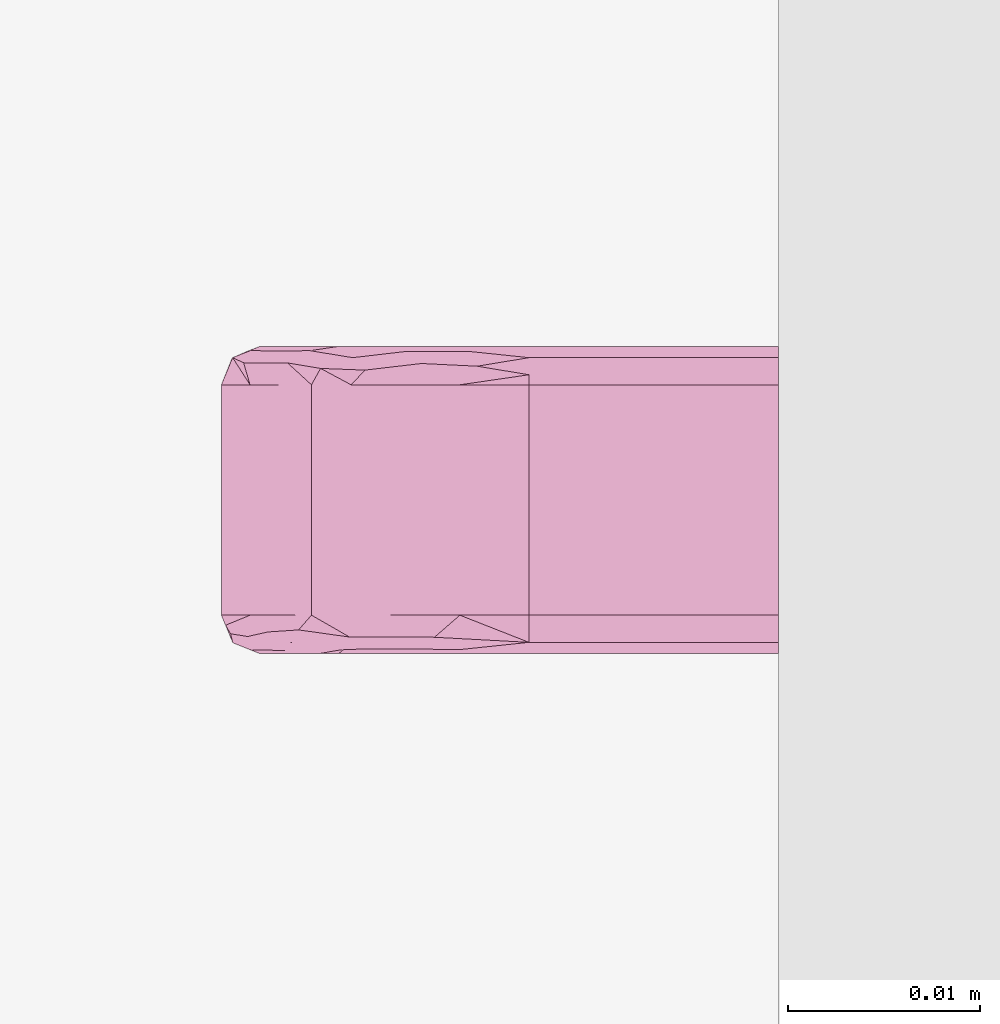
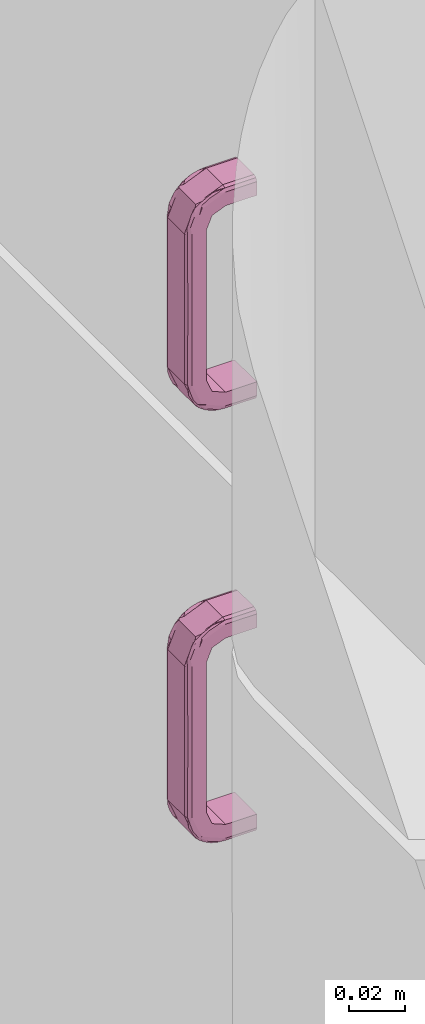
# One storey, part 58 of 65: 2 furnishings.
"""IFC2X3 building model written with IfcOpenShell, lengths in millimetres."""

from ifc_helpers import new_model, entity, si_unit, converted_unit, direction, frame, origin, place, context, subcontext, project, spatial, faceted_brep, source, transform, mapped, material, type_object, type_shapes, element, save


model = new_model("IFC2X3")

# Units and contexts
model_context = context("Model", 3, precision=0.01, world=origin(), true_north=direction((0.0, 1.0)))
body_context = subcontext(model_context, "Body", "Model", "MODEL_VIEW")
ifc_project = project(units=[si_unit("LENGTHUNIT", "METRE", prefix="MILLI"), si_unit("AREAUNIT", "SQUARE_METRE"), si_unit("VOLUMEUNIT", "CUBIC_METRE"), converted_unit("PLANEANGLEUNIT", "DEGREE", entity("IfcPlaneAngleMeasure", 0.017453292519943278), si_unit("PLANEANGLEUNIT", "RADIAN"), dimensions=[0, 0, 0, 0, 0, 0, 0])], contexts=[model_context])

# Site, building, storey, space
site_placement = place(None, origin())
site = spatial("IfcSite", under=ifc_project, at=site_placement, Name="Default", CompositionType="ELEMENT")
building_placement = place(site_placement, origin())
building = spatial("IfcBuilding", under=site, at=building_placement, CompositionType="ELEMENT")
storey_placement = place(building_placement, origin())
storey = spatial("IfcBuildingStorey", under=building, at=storey_placement, Name="Et. 1", CompositionType="ELEMENT", Elevation=0.0)
space_placement = place(storey_placement, origin())
space = spatial("IfcSpace", under=storey, at=space_placement, Name="109", CompositionType="ELEMENT", InteriorOrExteriorSpace="INTERNAL")

# Furnishings
ifc_material = material(Name="Focus - Kjøkken - Håndtak")
furniture_type = type_object("IfcFurnitureType", Name="Focus - Håndtak Skap:Håndtak skap", AssemblyPlace="NOTDEFINED", material=ifc_material)
shared_shape = source(origin(), body_context, "Body", "Brep", [
    faceted_brep([(-6.0, 0.0, 4.021099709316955), (6.0, 0.0, 4.021099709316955), (7.414213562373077, 0.0, 3.435313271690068), (8.0, 0.0, 2.021099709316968), (8.0, 0.0, -4.0210997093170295), (-8.0, 0.0, -4.0210997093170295), (-8.0, 0.0, 2.021099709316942), (-7.414213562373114, 0.0, 3.435313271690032), (-8.0, 0.0, -92.021099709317), (-8.0, 0.0, -85.97890029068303), (8.0, 0.0, -85.97890029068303), (8.0, 0.0, -92.02109970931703), (7.414213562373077, 0.0, -93.43531327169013), (6.0, 0.0, -94.02109970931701), (-6.0, 0.0, -94.02109970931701), (-7.414213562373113, 0.0, -93.43531327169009), (6.0, -13.0, 4.021099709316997), (7.414213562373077, -13.0, 3.4353132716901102), (7.707106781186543, -13.0, 2.728206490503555), (8.0, -13.0, 2.0210997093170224), (8.0, -16.60126528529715, 0.5294067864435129), (8.0, -19.75783998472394, -0.7780892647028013), (8.0, -22.914414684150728, -2.0855853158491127), (8.0, -23.941085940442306, -4.564188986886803), (8.0, -24.967757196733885, -7.042792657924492), (8.0, -25.994428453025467, -9.52139632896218), (8.0, -27.021099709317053, -12.0), (8.0, -27.021099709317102, -24.345039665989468), (8.0, -27.02109970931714, -36.69008005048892), (8.0, -27.021099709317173, -47.017560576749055), (8.0, -27.02109970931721, -57.34504038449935), (8.0, -27.021099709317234, -65.65496033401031), (8.0, -27.021099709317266, -78.0), (8.0, -25.52940678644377, -81.60126528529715), (8.0, -24.221910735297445, -84.75783998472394), (8.0, -22.914414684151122, -87.91441468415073), (8.0, -20.435811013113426, -88.9410859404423), (8.0, -17.95720734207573, -89.96775719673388), (8.0, -15.478603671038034, -90.99442845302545), (8.0, -13.0, -92.02109970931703), (8.0, -13.0, -85.97890029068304), (8.0, -18.64193450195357, -83.64193450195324), (8.0, -20.978900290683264, -78.0), (8.0, -20.978900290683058, -12.0), (8.0, -18.641934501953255, -6.358065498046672), (8.0, -13.0, -4.021099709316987), (-8.0, -13.0, -4.021099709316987), (-8.0, -13.0, -92.02109970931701), (-8.0, -16.6012653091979, -90.52940677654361), (-8.0, -19.7578399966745, -89.22191073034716), (-8.0, -22.914414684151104, -87.91441468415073), (-8.0, -23.941085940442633, -85.435811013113), (-8.0, -24.967757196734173, -82.9572073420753), (-8.0, -25.99442845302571, -80.47860367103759), (-8.0, -27.021099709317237, -78.0), (-8.0, -27.0210997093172, -65.65496055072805), (-8.0, -27.021099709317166, -55.327480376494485), (-8.0, -27.02109970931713, -45.00000020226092), (-8.0, -27.021099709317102, -34.67252002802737), (-8.0, -27.021099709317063, -24.34503985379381), (-8.0, -27.02109970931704, -12.0), (-8.0, -25.52940677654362, -8.398734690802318), (-8.0, -24.221910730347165, -5.242160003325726), (-8.0, -22.914414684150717, -2.0855853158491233), (-8.0, -20.435811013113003, -1.0589140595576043), (-8.0, -17.9572073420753, -0.032242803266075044), (-8.0, -15.478603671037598, 0.9944284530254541), (-8.0, -13.0, 2.0210997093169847), (-8.0, -18.641934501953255, -6.358065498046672), (-8.0, -20.97890029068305, -12.0), (-8.0, -20.978900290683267, -78.0), (-8.0, -18.64193450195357, -83.64193450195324), (-8.0, -13.0, -85.97890029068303), (-7.414213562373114, -13.0, 3.4353132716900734), (-6.523051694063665, -13.0, 3.8044446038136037), (-6.0, -13.0, 4.021099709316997), (7.77682804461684, -22.641402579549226, -0.588486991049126), (7.761199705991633, -19.755916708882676, 1.3575143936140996), (7.832026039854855, -25.954055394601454, -4.794062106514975), (6.0, -24.3286282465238, -0.6713717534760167), (6.7653668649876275, -25.002953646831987, -1.6197407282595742), (7.138822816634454, -22.341444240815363, 0.5752165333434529), (6.0, -20.2025305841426, 1.0377138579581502), (7.148530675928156, -17.923500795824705, 2.864246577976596), (7.108929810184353, -27.65191997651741, -6.400304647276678), (6.0, -26.037713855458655, -4.797469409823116), (6.0, -26.674863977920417, -6.335685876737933), (6.0, -27.52940678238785, -8.398734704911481), (6.0, -25.18317105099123, -2.734420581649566), (7.807346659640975, -27.454202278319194, -8.476170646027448), (7.7836039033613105, -16.529274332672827, 2.502698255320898), (6.0, -16.60126529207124, 2.529406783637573), (7.414213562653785, -25.40873190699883, -2.82000717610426), (6.873580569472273, -26.597477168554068, -3.91370423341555), (6.0, -21.496471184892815, 0.5017461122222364), (6.523051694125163, -28.804444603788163, -12.0), (6.968390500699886, -28.53877057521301, -9.3033965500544), (6.0, -27.847981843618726, -9.167842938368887), (6.0, -29.021099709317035, -12.0), (7.414213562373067, -28.43531327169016, -12.0), (6.0, -18.664314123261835, 1.67486397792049), (6.0, -25.501746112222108, -3.5035288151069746), (-6.0, -16.601265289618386, 2.529406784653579), (-6.0, -15.832157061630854, 2.847981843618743), (-7.78360391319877, -27.50269824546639, -8.470725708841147), (-7.761199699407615, -26.357514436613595, -5.244083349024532), (-7.10892981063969, -18.599695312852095, 2.651919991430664), (-6.0, -20.2025305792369, 1.0377138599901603), (-6.0, -18.664314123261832, 1.67486397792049), (-7.730939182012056, -16.04875454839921, 2.7104148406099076), (-7.744591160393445, -19.340507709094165, 1.5930015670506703), (-6.76536686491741, -21.540484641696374, 1.3746327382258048), (-6.0, -22.265579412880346, 0.183171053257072), (-6.0, -21.496471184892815, 0.5017461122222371), (-7.148530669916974, -27.864246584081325, -7.076499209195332), (-7.138822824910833, -25.57521654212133, -2.6585557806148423), (-6.0, -26.037713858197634, -4.7974694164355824), (-7.414213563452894, -22.17999279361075, 0.4087319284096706), (-7.776828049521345, -24.411513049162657, -2.3585974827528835), (-6.853012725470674, -23.855367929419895, -0.47819170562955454), (-7.414213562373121, -28.43531327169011, -12.0), (-6.0, -27.529406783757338, -8.398734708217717), (-6.0, -25.501746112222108, -3.5035288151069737), (-6.0, -24.3286282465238, -0.6713717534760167), (-7.7071067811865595, -27.728206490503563, -12.0), (-6.96839049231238, -15.696603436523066, 3.5387705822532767), (-6.0, -29.021099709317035, -12.0), (-6.0, -26.67486397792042, -6.33568587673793), (7.414213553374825, -28.435313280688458, -29.508780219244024), (6.0, -29.021099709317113, -34.67252039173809), (7.450985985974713, -28.39755881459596, -41.853819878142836), (7.41421354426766, -28.435313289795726, -61.49999992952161), (6.0, -29.02109970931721, -65.65496032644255), (7.4142135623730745, -28.435313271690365, -78.0), (6.0, -29.02109970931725, -78.0), (6.0, -29.02109970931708, -24.345039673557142), (7.707106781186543, -27.728206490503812, -78.0), (6.0, -29.02109970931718, -55.3274796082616), (6.0, -29.021099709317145, -45.0), (-7.414213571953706, -28.435313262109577, -29.50878047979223), (-6.0, -29.02109970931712, -36.69007988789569), (-6.0, -29.021099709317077, -24.345040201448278), (-7.414213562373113, -28.43531327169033, -78.0), (-7.414213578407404, -28.435313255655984, -61.499999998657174), (-6.0, -29.021099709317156, -47.017559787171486), (-7.376459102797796, -28.472085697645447, -41.85382016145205), (-6.0, -29.021099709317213, -65.6549603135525), (-6.523051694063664, -28.80444460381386, -78.0), (-6.0, -29.02109970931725, -78.0), (-6.0, -29.021099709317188, -57.34504020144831), (7.776828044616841, -24.411513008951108, -87.64140257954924), (7.7611997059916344, -26.357514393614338, -84.7559167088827), (7.8320260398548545, -20.20593789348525, -90.95405539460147), (6.0, -24.328628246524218, -89.32862824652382), (6.0, -22.265579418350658, -90.18317105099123), (6.7653668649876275, -23.38025927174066, -90.002953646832), (6.0, -26.037713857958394, -85.2025305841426), (7.138822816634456, -25.575216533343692, -87.34144424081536), (7.148530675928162, -27.864246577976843, -82.92350079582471), (7.108929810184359, -18.599695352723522, -92.65191997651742), (6.0, -20.202530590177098, -91.03771385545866), (6.0, -18.66431412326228, -91.67486397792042), (6.0, -16.601265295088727, -92.52940678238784), (6.873580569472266, -21.086295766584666, -91.5974771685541), (6.0, -21.49647118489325, -90.50174611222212), (7.8073466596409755, -16.5238293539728, -92.45420227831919), (7.78360390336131, -27.50269825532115, -81.52927433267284), (6.0, -27.529406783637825, -81.60126529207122), (7.414213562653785, -22.179992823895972, -90.40873190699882), (6.0, -25.50174611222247, -86.49647118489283), (6.523051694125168, -13.0, -93.80444460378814), (6.968390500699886, -15.696603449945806, -93.53877057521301), (6.0, -15.832157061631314, -92.84798184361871), (6.0, -13.0, -94.02109970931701), (7.414213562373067, -13.0, -93.43531327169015), (6.0, -26.674863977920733, -83.66431412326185), (-6.0, -27.529406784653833, -81.60126528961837), (-6.0, -27.84798184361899, -80.83215706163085), (-7.7836039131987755, -16.529274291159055, -92.50269824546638), (-7.7611996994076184, -19.755916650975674, -91.3575144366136), (-7.108929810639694, -27.651919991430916, -83.59969531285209), (-6.0, -26.03771385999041, -85.20253057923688), (-6.0, -26.67486397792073, -83.66431412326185), (-7.730939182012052, -27.71041484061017, -81.04875454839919), (-7.74459116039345, -26.593001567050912, -84.34050770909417), (-6.76536686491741, -26.374632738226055, -86.54048464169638), (-6.0, -25.18317105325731, -87.26557941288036), (-6.0, -25.50174611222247, -86.49647118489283), (-7.148530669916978, -17.923500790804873, -92.86424658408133), (-7.138822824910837, -22.341444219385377, -90.57521654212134), (-6.0, -20.20253058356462, -91.03771385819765), (-7.414213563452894, -25.40873192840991, -87.17999279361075), (-7.776828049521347, -22.64140251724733, -89.41151304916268), (-6.853012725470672, -24.52180829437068, -88.85536792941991), (-7.41421356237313, -13.0, -93.43531327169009), (-6.0, -16.601265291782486, -92.52940678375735), (-6.0, -21.49647118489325, -90.50174611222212), (-6.0, -24.328628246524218, -89.32862824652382), (-7.707106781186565, -13.0, -92.72820649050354), (-6.96839049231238, -28.538770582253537, -80.69660343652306), (-6.0, -13.0, -94.02109970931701), (-6.0, -18.66431412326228, -91.67486397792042)], [[[0, 1, 2, 3, 4, 5, 6, 7]], [[8, 9, 10, 11, 12, 13, 14, 15]], [[16, 17, 2, 1]], [[2, 17, 18, 19, 3]], [[4, 3, 19, 20, 21, 22, 23, 24, 25, 26, 27, 28, 29, 30, 31, 32, 33, 34, 35, 36, 37, 38, 39, 11, 10, 40, 41, 42, 43, 44, 45]], [[5, 4, 45, 46]], [[9, 8, 47, 48, 49, 50, 51, 52, 53, 54, 55, 56, 57, 58, 59, 60, 61, 62, 63, 64, 65, 66, 67, 6, 5, 46, 68, 69, 70, 71, 72]], [[67, 73, 7, 6]], [[7, 73, 74, 75, 0]], [[1, 0, 75, 16]], [[76, 21, 77]], [[78, 24, 23]], [[79, 80, 81]], [[82, 81, 83]], [[84, 85, 86, 87]], [[80, 79, 88]], [[89, 24, 78]], [[90, 77, 20]], [[17, 91, 83]], [[92, 93, 84]], [[81, 82, 94, 79]], [[87, 95, 96]], [[77, 83, 81]], [[23, 76, 78]], [[93, 92, 80]], [[22, 76, 23]], [[90, 17, 83]], [[19, 18, 17, 90]], [[95, 87, 97, 98]], [[99, 26, 89]], [[76, 77, 81]], [[20, 19, 90]], [[92, 76, 81]], [[21, 76, 22]], [[21, 20, 77]], [[83, 77, 90]], [[91, 17, 16]], [[83, 91, 100, 82]], [[93, 88, 101, 85]], [[81, 80, 92]], [[88, 93, 80]], [[85, 84, 93]], [[76, 92, 78]], [[92, 84, 78]], [[89, 78, 84]], [[84, 96, 89]], [[89, 26, 25, 24]], [[96, 95, 99]], [[89, 96, 99]], [[87, 96, 84]], [[44, 68, 46, 45]], [[43, 69, 68, 44]], [[74, 102, 103, 75]], [[104, 105, 61]], [[106, 107, 108, 102]], [[109, 110, 106]], [[111, 112, 113, 107]], [[105, 114, 115]], [[115, 114, 116]], [[110, 64, 117]], [[118, 62, 105]], [[106, 110, 117]], [[117, 119, 111]], [[120, 121, 114]], [[115, 116, 122, 123]], [[112, 111, 119]], [[119, 117, 118]], [[63, 118, 64]], [[104, 120, 114]], [[60, 124, 120, 104]], [[109, 125, 73]], [[125, 109, 106]], [[118, 105, 115]], [[61, 60, 104]], [[118, 115, 119]], [[62, 118, 63]], [[62, 61, 105]], [[114, 105, 104]], [[121, 120, 126]], [[114, 121, 127, 116]], [[107, 106, 111]], [[106, 117, 111]], [[115, 123, 119]], [[112, 119, 123]], [[64, 118, 117]], [[125, 74, 73]], [[102, 74, 125]], [[102, 125, 106]], [[73, 67, 109]], [[66, 65, 64, 110]], [[110, 109, 66]], [[109, 67, 66]], [[122, 116, 127, 121, 126, 98, 97, 87, 86, 85, 101, 88, 79, 123]], [[79, 94, 82, 100, 91, 16, 75, 103, 102, 108, 107, 113, 112, 123]], [[128, 28, 27, 99]], [[129, 130, 128]], [[29, 130, 131]], [[132, 133, 131]], [[132, 134, 133]], [[135, 99, 95, 98]], [[128, 99, 135, 129]], [[30, 29, 131, 31]], [[31, 133, 136, 32]], [[27, 26, 99]], [[31, 131, 133]], [[130, 137, 131]], [[28, 130, 29]], [[129, 138, 137, 130]], [[28, 128, 130]], [[137, 132, 131]], [[69, 43, 42, 70]], [[139, 140, 141, 120]], [[55, 142, 143]], [[144, 145, 143]], [[146, 142, 147, 148]], [[141, 126, 120]], [[55, 54, 142]], [[59, 120, 124, 60]], [[139, 120, 59, 58]], [[146, 149, 144, 143]], [[58, 145, 139]], [[146, 143, 142]], [[145, 56, 143]], [[140, 145, 144]], [[58, 57, 56, 145]], [[140, 139, 145]], [[56, 55, 143]], [[98, 126, 141, 140, 144, 149, 146, 148, 134, 132, 137, 138, 129, 135]], [[150, 34, 151]], [[152, 37, 36]], [[153, 154, 155]], [[156, 157, 158]], [[159, 160, 161, 162]], [[163, 154, 164, 160]], [[165, 37, 152]], [[166, 151, 33]], [[133, 167, 158]], [[168, 163, 159]], [[157, 156, 169, 153]], [[162, 170, 171]], [[151, 158, 157]], [[36, 150, 152]], [[163, 168, 155]], [[35, 150, 36]], [[166, 133, 158]], [[32, 136, 133, 166]], [[170, 162, 172, 173]], [[174, 39, 165]], [[150, 151, 157]], [[33, 32, 166]], [[168, 150, 157]], [[34, 150, 35]], [[34, 33, 151]], [[158, 151, 166]], [[167, 133, 134]], [[158, 167, 175, 156]], [[168, 157, 155]], [[157, 153, 155]], [[154, 163, 155]], [[160, 159, 163]], [[150, 168, 152]], [[168, 159, 152]], [[165, 152, 159]], [[159, 171, 165]], [[165, 39, 38, 37]], [[171, 170, 174]], [[165, 171, 174]], [[162, 171, 159]], [[41, 71, 70, 42]], [[40, 72, 71, 41]], [[147, 176, 177, 148]], [[178, 179, 48]], [[180, 181, 182, 176]], [[183, 184, 180]], [[185, 186, 187, 181]], [[179, 188, 189]], [[189, 188, 190]], [[184, 51, 191]], [[192, 49, 179]], [[180, 184, 191]], [[191, 193, 185]], [[194, 195, 188]], [[189, 190, 196, 197]], [[186, 185, 193]], [[193, 191, 192]], [[50, 192, 51]], [[178, 194, 188]], [[47, 198, 194, 178]], [[183, 199, 142]], [[199, 183, 180]], [[192, 179, 189]], [[48, 47, 178]], [[192, 189, 193]], [[49, 192, 50]], [[49, 48, 179]], [[188, 179, 178]], [[195, 194, 200]], [[188, 195, 201, 190]], [[181, 180, 185]], [[180, 191, 185]], [[189, 197, 193]], [[186, 193, 197]], [[51, 192, 191]], [[199, 147, 142]], [[176, 147, 199]], [[176, 199, 180]], [[142, 54, 183]], [[53, 52, 51, 184]], [[184, 183, 53]], [[183, 54, 53]], [[196, 190, 201, 195, 200, 173, 172, 162, 161, 160, 164, 154, 153, 197]], [[153, 169, 156, 175, 167, 134, 148, 177, 176, 182, 181, 187, 186, 197]], [[13, 12, 174, 170, 173]], [[174, 12, 11, 39]], [[72, 40, 10, 9]], [[8, 15, 194, 198, 47]], [[194, 15, 14, 200]], [[173, 200, 14, 13]]]),
])
type_shapes(furniture_type, [shared_shape])
for number, where, z_axis, x_axis, name in (
    (1, (27442.009586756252, 12806.05871915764, 820.0), (0.0, 0.0, 1.0), (0.0, -1.0, 0.0), "Focus - Håndtak Skap:Håndtak skap"),
    (2, (27442.009586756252, 12806.05871915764, 1010.0), (0.0, 0.0, 1.0), (0.0, -1.0, 0.0), "Focus - Håndtak Skap:Håndtak skap"),
):
    element("IfcFurnishingElement", number, at=place(space_placement, frame(where, z_axis=z_axis, x_axis=x_axis)), inside=space, type_object=furniture_type, material=ifc_material, Name=name, context=body_context, shape_type="MappedRepresentation", body=[
        mapped(shared_shape, transform((0.0, 0.0, 0.0), scale=1.0)),
    ])

save(model, "model.ifc")
